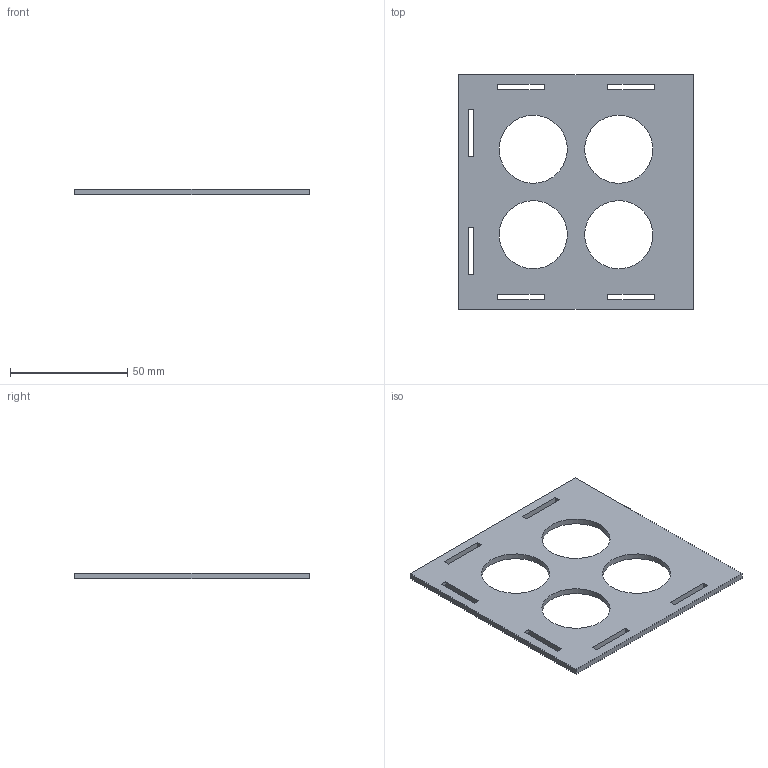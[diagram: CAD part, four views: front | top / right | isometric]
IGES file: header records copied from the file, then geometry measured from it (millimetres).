
Global section: file name: 3.Posterior; native system: Autodesk Inventor 2022; preprocessor: unknown; author: Daniel; date: 20220531.022144; units: millimetre
Bounding box: 100 x 100 x 2.5 mm (x, y, z)
Volume: 17639.2 mm3; surface area: 16703 mm2
Topology: 1 solids, 1 shells, 34 faces, 96 edges, 64 vertices
Faces by surface type: bspline 34
